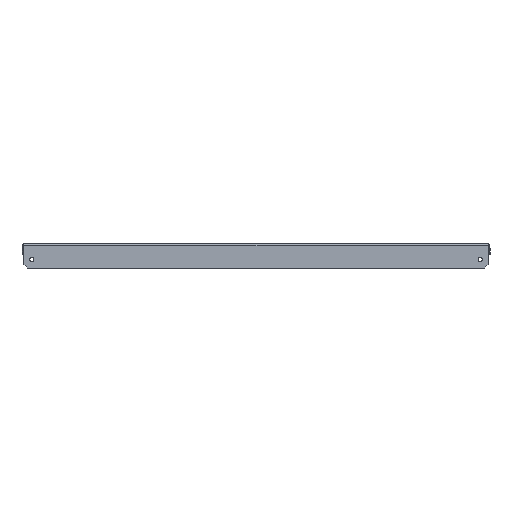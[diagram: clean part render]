
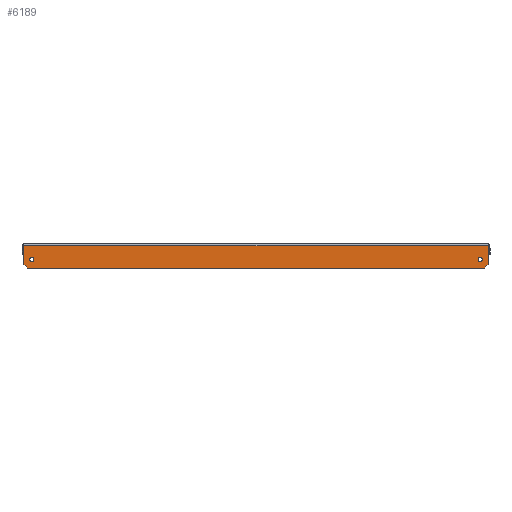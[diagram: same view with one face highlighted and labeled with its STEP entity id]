
A CAD part, left-side view. The second image highlights one B-rep face of the part: STEP entity #6189.
In plain terms, the highlighted planar face has unit normal (-1, 0, 0).
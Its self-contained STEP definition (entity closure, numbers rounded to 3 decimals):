
#127 = FACE_BOUND ( 'NONE', #13026, .T. ) ;
#1487 = ORIENTED_EDGE ( 'NONE', *, *, #37046, .T. ) ;
#1869 = VERTEX_POINT ( 'NONE', #28886 ) ;
#2215 = VERTEX_POINT ( 'NONE', #23982 ) ;
#3727 = DIRECTION ( 'NONE',  ( 0., 0., 1. ) ) ;
#3937 = PLANE ( 'NONE',  #17281 ) ;
#4093 = DIRECTION ( 'NONE',  ( 0., 0., 1. ) ) ;
#4309 = ORIENTED_EDGE ( 'NONE', *, *, #30219, .T. ) ;
#4539 = DIRECTION ( 'NONE',  ( -1., 0., 0. ) ) ;
#4723 = DIRECTION ( 'NONE',  ( 1., 0., 0. ) ) ;
#6189 = ADVANCED_FACE ( 'NONE', ( #21272, #127, #6875 ), #3937, .T. ) ;
#6436 = VERTEX_POINT ( 'NONE', #20166 ) ;
#6554 = CIRCLE ( 'NONE', #13039, 2.75 ) ;
#6875 = FACE_OUTER_BOUND ( 'NONE', #23140, .T. ) ;
#7762 = VECTOR ( 'NONE', #27428, 1000. ) ;
#7779 = DIRECTION ( 'NONE',  ( 0., 1., 0. ) ) ;
#7924 = CARTESIAN_POINT ( 'NONE',  ( -348.5, 297.5, -1.5 ) ) ;
#8643 = LINE ( 'NONE', #22157, #41449 ) ;
#8760 = CARTESIAN_POINT ( 'NONE',  ( -348.5, -287.5, -20. ) ) ;
#9200 = DIRECTION ( 'NONE',  ( 0., -0.707, 0.707 ) ) ;
#10171 = CIRCLE ( 'NONE', #37518, 2.75 ) ;
#11685 = ORIENTED_EDGE ( 'NONE', *, *, #34155, .F. ) ;
#11741 = DIRECTION ( 'NONE',  ( 0., 0., 1. ) ) ;
#12538 = EDGE_CURVE ( 'NONE', #1869, #36065, #41215, .T. ) ;
#12759 = ORIENTED_EDGE ( 'NONE', *, *, #19853, .T. ) ;
#12962 = ORIENTED_EDGE ( 'NONE', *, *, #36340, .T. ) ;
#13026 = EDGE_LOOP ( 'NONE', ( #37582 ) ) ;
#13039 = AXIS2_PLACEMENT_3D ( 'NONE', #14218, #4539, #11741 ) ;
#13452 = CARTESIAN_POINT ( 'NONE',  ( -348.5, 297.5, -2.5 ) ) ;
#13646 = CARTESIAN_POINT ( 'NONE',  ( -348.5, 297.5, -26. ) ) ;
#14193 = EDGE_CURVE ( 'NONE', #2215, #2215, #6554, .T. ) ;
#14218 = CARTESIAN_POINT ( 'NONE',  ( -348.5, 287.5, -20. ) ) ;
#14758 = CARTESIAN_POINT ( 'NONE',  ( -348.5, 161.75, -161.75 ) ) ;
#15511 = EDGE_CURVE ( 'NONE', #30804, #43818, #42832, .T. ) ;
#15626 = EDGE_LOOP ( 'NONE', ( #12759 ) ) ;
#15709 = VERTEX_POINT ( 'NONE', #26822 ) ;
#17281 = AXIS2_PLACEMENT_3D ( 'NONE', #37738, #27603, #3727 ) ;
#17357 = CARTESIAN_POINT ( 'NONE',  ( -348.5, 292.5, -31. ) ) ;
#18278 = ORIENTED_EDGE ( 'NONE', *, *, #15511, .F. ) ;
#19853 = EDGE_CURVE ( 'NONE', #6436, #6436, #10171, .T. ) ;
#20166 = CARTESIAN_POINT ( 'NONE',  ( -348.5, -287.5, -17.25 ) ) ;
#21272 = FACE_BOUND ( 'NONE', #15626, .T. ) ;
#21959 = DIRECTION ( 'NONE',  ( 0., -0.707, -0.707 ) ) ;
#22157 = CARTESIAN_POINT ( 'NONE',  ( -348.5, -297.5, -31. ) ) ;
#23140 = EDGE_LOOP ( 'NONE', ( #18278, #1487, #39757, #4309, #11685, #12962 ) ) ;
#23163 = CARTESIAN_POINT ( 'NONE',  ( -348.5, -161.75, -161.75 ) ) ;
#23853 = CARTESIAN_POINT ( 'NONE',  ( -348.5, 297.5, -31. ) ) ;
#23982 = CARTESIAN_POINT ( 'NONE',  ( -348.5, 287.5, -17.25 ) ) ;
#25760 = DIRECTION ( 'NONE',  ( 0., 0., -1. ) ) ;
#26822 = CARTESIAN_POINT ( 'NONE',  ( -348.5, -297.5, -2.5 ) ) ;
#27181 = CARTESIAN_POINT ( 'NONE',  ( -348.5, -297.5, -26. ) ) ;
#27428 = DIRECTION ( 'NONE',  ( 0., 1., 0. ) ) ;
#27603 = DIRECTION ( 'NONE',  ( -1., 0., 0. ) ) ;
#28091 = LINE ( 'NONE', #31243, #7762 ) ;
#28418 = VERTEX_POINT ( 'NONE', #27181 ) ;
#28886 = CARTESIAN_POINT ( 'NONE',  ( -348.5, -292.5, -31. ) ) ;
#30160 = LINE ( 'NONE', #23163, #40674 ) ;
#30219 = EDGE_CURVE ( 'NONE', #1869, #28418, #30160, .T. ) ;
#30804 = VERTEX_POINT ( 'NONE', #13646 ) ;
#31243 = CARTESIAN_POINT ( 'NONE',  ( -348.5, 0., -2.5 ) ) ;
#32434 = DIRECTION ( 'NONE',  ( 0., 0., 1. ) ) ;
#33947 = VECTOR ( 'NONE', #4093, 1000. ) ;
#34155 = EDGE_CURVE ( 'NONE', #15709, #28418, #8643, .T. ) ;
#36065 = VERTEX_POINT ( 'NONE', #17357 ) ;
#36340 = EDGE_CURVE ( 'NONE', #15709, #43818, #28091, .T. ) ;
#37046 = EDGE_CURVE ( 'NONE', #30804, #36065, #42487, .T. ) ;
#37518 = AXIS2_PLACEMENT_3D ( 'NONE', #8760, #4723, #32434 ) ;
#37582 = ORIENTED_EDGE ( 'NONE', *, *, #14193, .F. ) ;
#37738 = CARTESIAN_POINT ( 'NONE',  ( -348.5, 0., 0. ) ) ;
#38124 = VECTOR ( 'NONE', #7779, 1000. ) ;
#39475 = VECTOR ( 'NONE', #21959, 1000. ) ;
#39757 = ORIENTED_EDGE ( 'NONE', *, *, #12538, .F. ) ;
#40674 = VECTOR ( 'NONE', #9200, 1000. ) ;
#41215 = LINE ( 'NONE', #23853, #38124 ) ;
#41449 = VECTOR ( 'NONE', #25760, 1000. ) ;
#42487 = LINE ( 'NONE', #14758, #39475 ) ;
#42832 = LINE ( 'NONE', #7924, #33947 ) ;
#43818 = VERTEX_POINT ( 'NONE', #13452 ) ;
